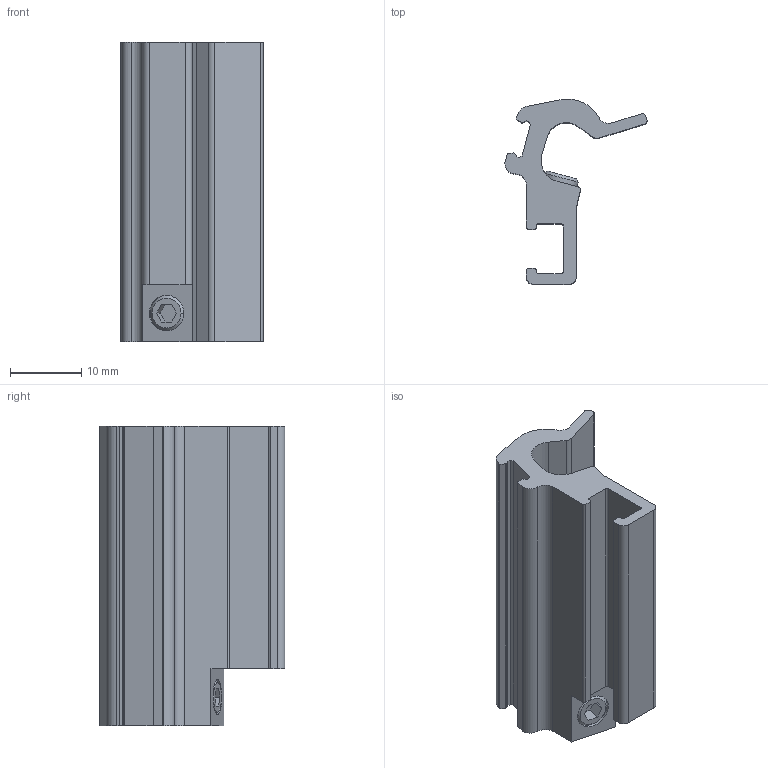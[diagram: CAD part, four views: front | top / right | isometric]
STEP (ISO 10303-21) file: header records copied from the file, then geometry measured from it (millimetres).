
FILE_DESCRIPTION((''),'2;1');
FILE_NAME('1827020282','2024-04-17T17:30:43',('GND7HC'),(''),'CREO PARAMETRIC BY PTC INC, 2023092','CREO PARAMETRIC BY PTC INC, 2023092','');
FILE_SCHEMA(('CONFIG_CONTROL_DESIGN','SHAPE_APPEARANCE_LAYERS_GROUPS'));
Length unit declared in the file: millimetre
Products named in the file (1): 1827020282
Bounding box: 19.94 x 26 x 42 mm (x, y, z)
Volume: 5767.1 mm3; surface area: 4709 mm2
Topology: 1 solids, 1 shells, 76 faces, 219 edges, 147 vertices
Faces by surface type: plane 46, cylinder 26, cone 4
Entity records: 3433 total; most frequent: CARTESIAN_POINT 482, ORIENTED_EDGE 438, DIRECTION 432, PRESENTATION_STYLE_ASSIGNMENT 234, STYLED_ITEM 220, CURVE_STYLE 219, EDGE_CURVE 219, VECTOR 152
